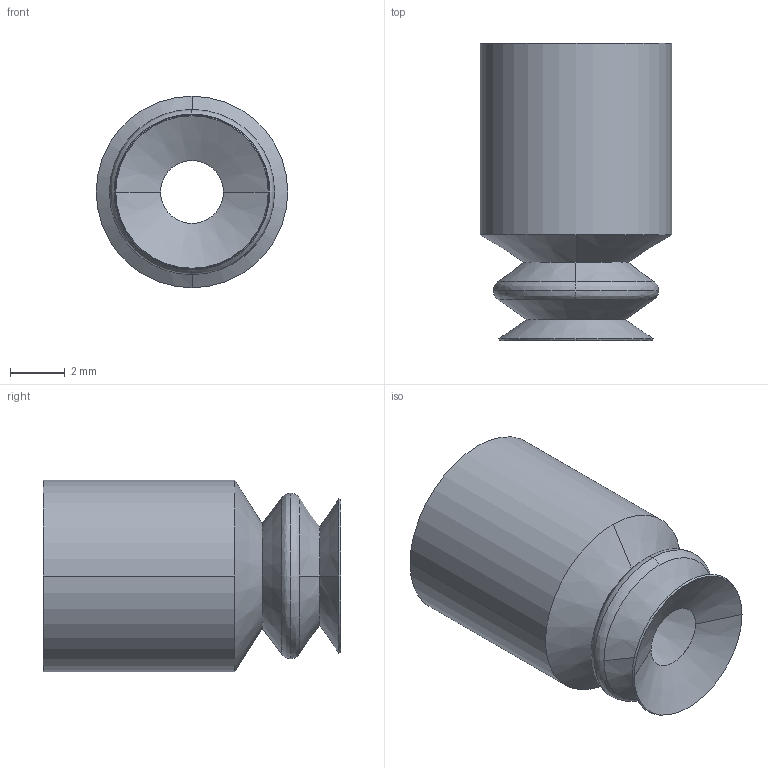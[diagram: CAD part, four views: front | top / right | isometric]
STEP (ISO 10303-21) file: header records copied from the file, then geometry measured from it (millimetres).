
FILE_DESCRIPTION (( 'STEP AP214' ), '1' );
FILE_NAME ('VS2-SA5.STEP', '2019-11-13T08:00:03', ( '微软用户' ), ( '微软中国' ), 'SwSTEP 2.0', 'SolidWorks 2016', '' );
FILE_SCHEMA (( 'AUTOMOTIVE_DESIGN' ));
Length unit declared in the file: millimetre
Products named in the file (1): VS2-SA5
Bounding box: 7 x 10.87 x 7 mm (x, y, z)
Volume: 219.3 mm3; surface area: 448.1 mm2
Topology: 1 solids, 1 shells, 27 faces, 66 edges, 40 vertices
Faces by surface type: cone 18, cylinder 4, bspline 4, plane 1
Entity records: 886 total; most frequent: CARTESIAN_POINT 206, DIRECTION 150, ORIENTED_EDGE 132, EDGE_CURVE 66, AXIS2_PLACEMENT_3D 64, VERTEX_POINT 40, CIRCLE 40, EDGE_LOOP 28
